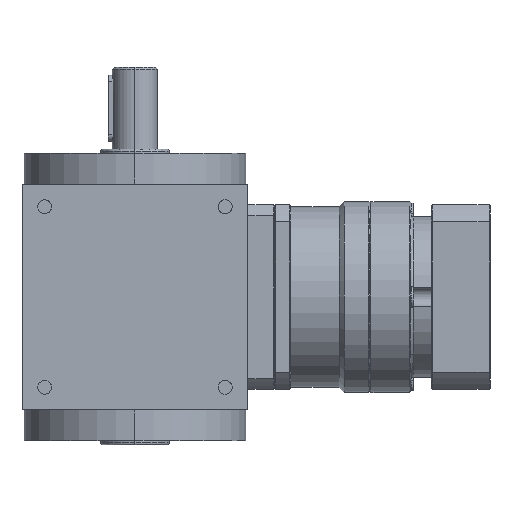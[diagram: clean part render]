
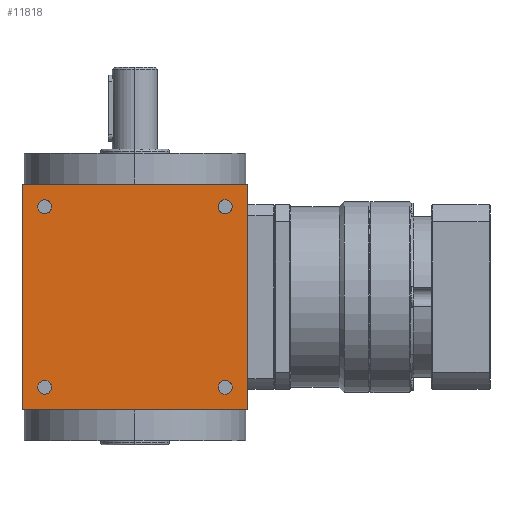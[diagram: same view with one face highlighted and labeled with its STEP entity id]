
A CAD part, left-side view. The second image highlights one B-rep face of the part: STEP entity #11818.
In plain terms, the highlighted planar face has unit normal (-1, 0, 0).
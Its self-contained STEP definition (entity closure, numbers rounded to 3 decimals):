
#697 = VERTEX_POINT ( 'NONE', #8186 ) ;
#737 = VERTEX_POINT ( 'NONE', #4975 ) ;
#923 = EDGE_CURVE ( 'NONE', #17142, #5776, #10959, .T. ) ;
#1414 = CIRCLE ( 'NONE', #23178, 3.4 ) ;
#1610 = VECTOR ( 'NONE', #5863, 1000. ) ;
#1863 = EDGE_CURVE ( 'NONE', #5776, #17142, #22555, .T. ) ;
#1953 = ORIENTED_EDGE ( 'NONE', *, *, #39482, .T. ) ;
#2009 = EDGE_CURVE ( 'NONE', #6093, #697, #5200, .T. ) ;
#2200 = DIRECTION ( 'NONE',  ( 0., 0., 1. ) ) ;
#2289 = EDGE_CURVE ( 'NONE', #13850, #38634, #36440, .T. ) ;
#2321 = CARTESIAN_POINT ( 'NONE',  ( -55., 44., -40.6 ) ) ;
#3804 = EDGE_CURVE ( 'NONE', #39259, #737, #6182, .T. ) ;
#3857 = DIRECTION ( 'NONE',  ( 1., 0., 0. ) ) ;
#4231 = FACE_BOUND ( 'NONE', #19246, .T. ) ;
#4665 = ORIENTED_EDGE ( 'NONE', *, *, #38253, .T. ) ;
#4975 = CARTESIAN_POINT ( 'NONE',  ( -55., -44., -40.6 ) ) ;
#5037 = EDGE_CURVE ( 'NONE', #697, #6093, #37537, .T. ) ;
#5200 = CIRCLE ( 'NONE', #18537, 3.4 ) ;
#5293 = AXIS2_PLACEMENT_3D ( 'NONE', #36690, #18290, #5892 ) ;
#5348 = EDGE_CURVE ( 'NONE', #737, #39259, #1414, .T. ) ;
#5776 = VERTEX_POINT ( 'NONE', #18236 ) ;
#5784 = DIRECTION ( 'NONE',  ( 1., 0., 0. ) ) ;
#5863 = DIRECTION ( 'NONE',  ( 0., -1., 0. ) ) ;
#5892 = DIRECTION ( 'NONE',  ( 0., 0., 1. ) ) ;
#6093 = VERTEX_POINT ( 'NONE', #2321 ) ;
#6182 = CIRCLE ( 'NONE', #32348, 3.4 ) ;
#6311 = DIRECTION ( 'NONE',  ( 0., 0., -1. ) ) ;
#6452 = LINE ( 'NONE', #24859, #24166 ) ;
#7066 = FACE_BOUND ( 'NONE', #28255, .T. ) ;
#7237 = CARTESIAN_POINT ( 'NONE',  ( -55., -55., -55. ) ) ;
#7512 = VERTEX_POINT ( 'NONE', #12561 ) ;
#8186 = CARTESIAN_POINT ( 'NONE',  ( -55., 44., -47.4 ) ) ;
#8699 = ORIENTED_EDGE ( 'NONE', *, *, #2289, .T. ) ;
#9062 = DIRECTION ( 'NONE',  ( 0., 0., 1. ) ) ;
#9440 = LINE ( 'NONE', #30656, #1610 ) ;
#9458 = AXIS2_PLACEMENT_3D ( 'NONE', #23629, #29047, #2200 ) ;
#10241 = DIRECTION ( 'NONE',  ( -1., 0., 0. ) ) ;
#10959 = CIRCLE ( 'NONE', #14153, 3.4 ) ;
#11818 = ADVANCED_FACE ( 'NONE', ( #19853, #19656, #28866, #4231, #7066 ), #37480, .T. ) ;
#12426 = DIRECTION ( 'NONE',  ( 0., 0., 1. ) ) ;
#12561 = CARTESIAN_POINT ( 'NONE',  ( -55., 55., 55. ) ) ;
#12970 = VERTEX_POINT ( 'NONE', #32385 ) ;
#13065 = DIRECTION ( 'NONE',  ( 0., 0., 1. ) ) ;
#13435 = CARTESIAN_POINT ( 'NONE',  ( -55., 55., -55. ) ) ;
#13576 = ORIENTED_EDGE ( 'NONE', *, *, #2009, .T. ) ;
#13689 = ORIENTED_EDGE ( 'NONE', *, *, #21441, .T. ) ;
#13701 = CIRCLE ( 'NONE', #24617, 3.4 ) ;
#13850 = VERTEX_POINT ( 'NONE', #7237 ) ;
#13977 = VECTOR ( 'NONE', #6311, 1000. ) ;
#14153 = AXIS2_PLACEMENT_3D ( 'NONE', #30367, #14554, #15351 ) ;
#14554 = DIRECTION ( 'NONE',  ( 1., 0., 0. ) ) ;
#15351 = DIRECTION ( 'NONE',  ( 0., 0., 1. ) ) ;
#16855 = EDGE_LOOP ( 'NONE', ( #13576, #19357 ) ) ;
#17142 = VERTEX_POINT ( 'NONE', #37672 ) ;
#18236 = CARTESIAN_POINT ( 'NONE',  ( -55., -44., 40.6 ) ) ;
#18290 = DIRECTION ( 'NONE',  ( 1., 0., 0. ) ) ;
#18537 = AXIS2_PLACEMENT_3D ( 'NONE', #28879, #3857, #13065 ) ;
#19246 = EDGE_LOOP ( 'NONE', ( #20709, #23722 ) ) ;
#19357 = ORIENTED_EDGE ( 'NONE', *, *, #5037, .T. ) ;
#19656 = FACE_BOUND ( 'NONE', #21413, .T. ) ;
#19853 = FACE_OUTER_BOUND ( 'NONE', #21714, .T. ) ;
#20179 = ORIENTED_EDGE ( 'NONE', *, *, #21115, .T. ) ;
#20709 = ORIENTED_EDGE ( 'NONE', *, *, #5348, .T. ) ;
#20791 = VERTEX_POINT ( 'NONE', #33491 ) ;
#21115 = EDGE_CURVE ( 'NONE', #38634, #7512, #6452, .T. ) ;
#21202 = CARTESIAN_POINT ( 'NONE',  ( -55., 44., -44. ) ) ;
#21399 = DIRECTION ( 'NONE',  ( 0., 0., 1. ) ) ;
#21413 = EDGE_LOOP ( 'NONE', ( #28818, #33839 ) ) ;
#21441 = EDGE_CURVE ( 'NONE', #12970, #20791, #33109, .T. ) ;
#21714 = EDGE_LOOP ( 'NONE', ( #37518, #4665, #8699, #20179 ) ) ;
#22073 = EDGE_CURVE ( 'NONE', #7512, #36270, #23780, .T. ) ;
#22203 = AXIS2_PLACEMENT_3D ( 'NONE', #21202, #5784, #21399 ) ;
#22555 = CIRCLE ( 'NONE', #5293, 3.4 ) ;
#22861 = DIRECTION ( 'NONE',  ( 0., 0., 1. ) ) ;
#23178 = AXIS2_PLACEMENT_3D ( 'NONE', #30880, #36092, #33469 ) ;
#23629 = CARTESIAN_POINT ( 'NONE',  ( -55., 44., 44. ) ) ;
#23722 = ORIENTED_EDGE ( 'NONE', *, *, #3804, .T. ) ;
#23780 = LINE ( 'NONE', #24524, #13977 ) ;
#24166 = VECTOR ( 'NONE', #33634, 1000. ) ;
#24524 = CARTESIAN_POINT ( 'NONE',  ( -55., 55., -55. ) ) ;
#24617 = AXIS2_PLACEMENT_3D ( 'NONE', #26109, #38318, #9062 ) ;
#24859 = CARTESIAN_POINT ( 'NONE',  ( -55., 55., 55. ) ) ;
#24921 = CARTESIAN_POINT ( 'NONE',  ( -55., 55., -55. ) ) ;
#26109 = CARTESIAN_POINT ( 'NONE',  ( -55., 44., 44. ) ) ;
#26836 = DIRECTION ( 'NONE',  ( 0., 0., 1. ) ) ;
#27591 = AXIS2_PLACEMENT_3D ( 'NONE', #13435, #10241, #22861 ) ;
#28255 = EDGE_LOOP ( 'NONE', ( #13689, #1953 ) ) ;
#28818 = ORIENTED_EDGE ( 'NONE', *, *, #923, .T. ) ;
#28866 = FACE_BOUND ( 'NONE', #16855, .T. ) ;
#28879 = CARTESIAN_POINT ( 'NONE',  ( -55., 44., -44. ) ) ;
#29047 = DIRECTION ( 'NONE',  ( 1., 0., 0. ) ) ;
#30367 = CARTESIAN_POINT ( 'NONE',  ( -55., -44., 44. ) ) ;
#30656 = CARTESIAN_POINT ( 'NONE',  ( -55., 55., -55. ) ) ;
#30671 = VECTOR ( 'NONE', #12426, 1000. ) ;
#30880 = CARTESIAN_POINT ( 'NONE',  ( -55., -44., -44. ) ) ;
#31892 = CARTESIAN_POINT ( 'NONE',  ( -55., -44., -47.4 ) ) ;
#32348 = AXIS2_PLACEMENT_3D ( 'NONE', #32807, #32405, #26836 ) ;
#32385 = CARTESIAN_POINT ( 'NONE',  ( -55., 44., 47.4 ) ) ;
#32405 = DIRECTION ( 'NONE',  ( 1., 0., 0. ) ) ;
#32417 = CARTESIAN_POINT ( 'NONE',  ( -55., -55., 55. ) ) ;
#32807 = CARTESIAN_POINT ( 'NONE',  ( -55., -44., -44. ) ) ;
#33109 = CIRCLE ( 'NONE', #9458, 3.4 ) ;
#33469 = DIRECTION ( 'NONE',  ( 0., 0., 1. ) ) ;
#33491 = CARTESIAN_POINT ( 'NONE',  ( -55., 44., 40.6 ) ) ;
#33626 = CARTESIAN_POINT ( 'NONE',  ( -55., -55., -55. ) ) ;
#33634 = DIRECTION ( 'NONE',  ( 0., 1., 0. ) ) ;
#33839 = ORIENTED_EDGE ( 'NONE', *, *, #1863, .T. ) ;
#36092 = DIRECTION ( 'NONE',  ( 1., 0., 0. ) ) ;
#36270 = VERTEX_POINT ( 'NONE', #24921 ) ;
#36440 = LINE ( 'NONE', #33626, #30671 ) ;
#36690 = CARTESIAN_POINT ( 'NONE',  ( -55., -44., 44. ) ) ;
#37480 = PLANE ( 'NONE',  #27591 ) ;
#37518 = ORIENTED_EDGE ( 'NONE', *, *, #22073, .T. ) ;
#37537 = CIRCLE ( 'NONE', #22203, 3.4 ) ;
#37672 = CARTESIAN_POINT ( 'NONE',  ( -55., -44., 47.4 ) ) ;
#38253 = EDGE_CURVE ( 'NONE', #36270, #13850, #9440, .T. ) ;
#38318 = DIRECTION ( 'NONE',  ( 1., 0., 0. ) ) ;
#38634 = VERTEX_POINT ( 'NONE', #32417 ) ;
#39259 = VERTEX_POINT ( 'NONE', #31892 ) ;
#39482 = EDGE_CURVE ( 'NONE', #20791, #12970, #13701, .T. ) ;
